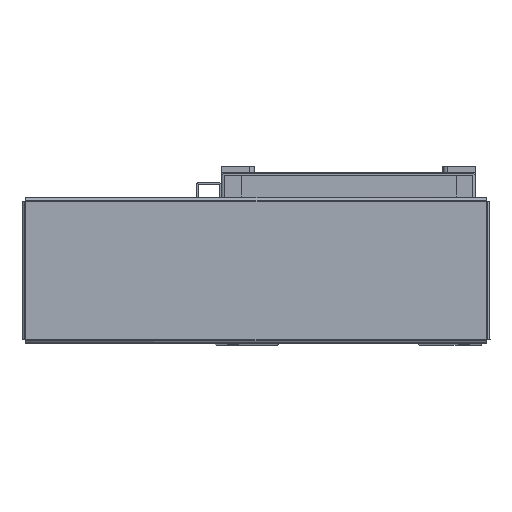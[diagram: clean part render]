
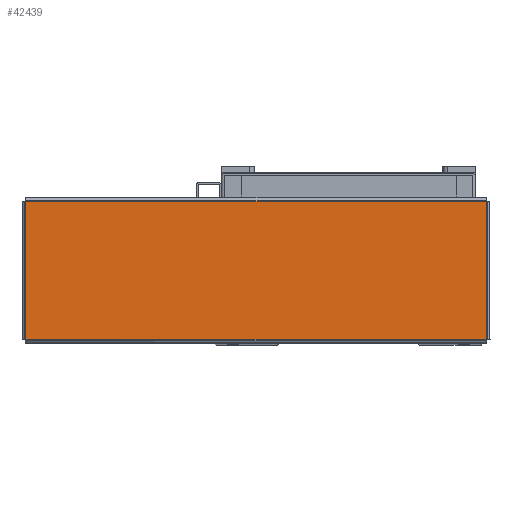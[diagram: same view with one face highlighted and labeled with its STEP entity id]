
A CAD part, top view. The second image highlights one B-rep face of the part: STEP entity #42439.
In plain terms, the highlighted planar face has unit normal (0, 0, 1) as drawn and (0, -1, 0) by its records, which use the part's own axes.
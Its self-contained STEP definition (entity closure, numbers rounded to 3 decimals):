
#3235 = FACE_OUTER_BOUND ( 'NONE', #28697, .T. ) ;
#6196 = DIRECTION ( 'NONE',  ( 0., 1., 0. ) ) ;
#6198 = DIRECTION ( 'NONE',  ( 0., 0., 1. ) ) ;
#6269 = PLANE ( 'NONE',  #19665 ) ;
#6271 = CARTESIAN_POINT ( 'NONE',  ( 0., -1.5, 0. ) ) ;
#15214 = CARTESIAN_POINT ( 'NONE',  ( 139.293, -1.5, 41.763 ) ) ;
#15222 = DIRECTION ( 'NONE',  ( -1., 0., 0. ) ) ;
#15267 = CARTESIAN_POINT ( 'NONE',  ( -139.293, -1.5, -41.763 ) ) ;
#15348 = DIRECTION ( 'NONE',  ( 1., 0., 0. ) ) ;
#15409 = CARTESIAN_POINT ( 'NONE',  ( -139.263, -1.5, 41.793 ) ) ;
#15412 = DIRECTION ( 'NONE',  ( 0., 0., -1. ) ) ;
#15416 = CARTESIAN_POINT ( 'NONE',  ( 139.263, -1.5, -41.793 ) ) ;
#15418 = DIRECTION ( 'NONE',  ( 0., 0., 1. ) ) ;
#19665 = AXIS2_PLACEMENT_3D ( 'NONE', #6271, #6196, #6198 ) ;
#23496 = CARTESIAN_POINT ( 'NONE',  ( -139.263, -1.5, -41.763 ) ) ;
#23520 = CARTESIAN_POINT ( 'NONE',  ( 139.263, -1.5, 41.763 ) ) ;
#23536 = CARTESIAN_POINT ( 'NONE',  ( -139.263, -1.5, 41.763 ) ) ;
#23537 = CARTESIAN_POINT ( 'NONE',  ( 139.263, -1.5, -41.763 ) ) ;
#28697 = EDGE_LOOP ( 'NONE', ( #51279, #51305, #51234, #51227 ) ) ;
#29397 = VERTEX_POINT ( 'NONE', #23496 ) ;
#29417 = VERTEX_POINT ( 'NONE', #23536 ) ;
#29457 = VERTEX_POINT ( 'NONE', #23537 ) ;
#29461 = VERTEX_POINT ( 'NONE', #23520 ) ;
#37720 = EDGE_CURVE ( 'NONE', #29461, #29417, #45945, .T. ) ;
#37738 = EDGE_CURVE ( 'NONE', #29397, #29457, #45992, .T. ) ;
#37775 = EDGE_CURVE ( 'NONE', #29457, #29461, #46003, .T. ) ;
#37785 = EDGE_CURVE ( 'NONE', #29417, #29397, #46076, .T. ) ;
#42439 = ADVANCED_FACE ( 'NONE', ( #3235 ), #6269, .F. ) ;
#45945 = LINE ( 'NONE', #15214, #45962 ) ;
#45962 = VECTOR ( 'NONE', #15222, 1000. ) ;
#45992 = LINE ( 'NONE', #15267, #45996 ) ;
#45996 = VECTOR ( 'NONE', #15348, 1000. ) ;
#46003 = LINE ( 'NONE', #15416, #46009 ) ;
#46009 = VECTOR ( 'NONE', #15418, 1000. ) ;
#46036 = VECTOR ( 'NONE', #15412, 1000. ) ;
#46076 = LINE ( 'NONE', #15409, #46036 ) ;
#51227 = ORIENTED_EDGE ( 'NONE', *, *, #37738, .T. ) ;
#51234 = ORIENTED_EDGE ( 'NONE', *, *, #37785, .T. ) ;
#51279 = ORIENTED_EDGE ( 'NONE', *, *, #37775, .T. ) ;
#51305 = ORIENTED_EDGE ( 'NONE', *, *, #37720, .T. ) ;
